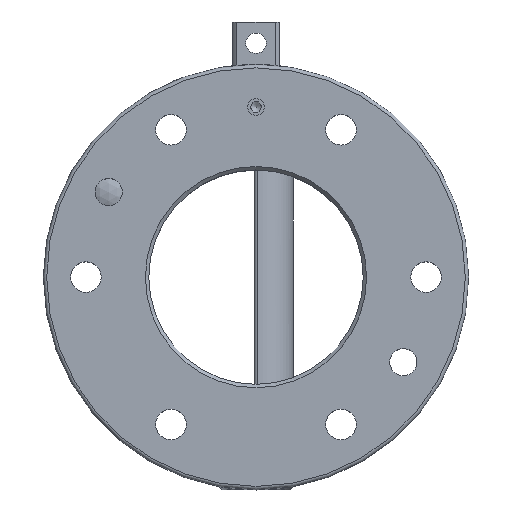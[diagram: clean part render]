
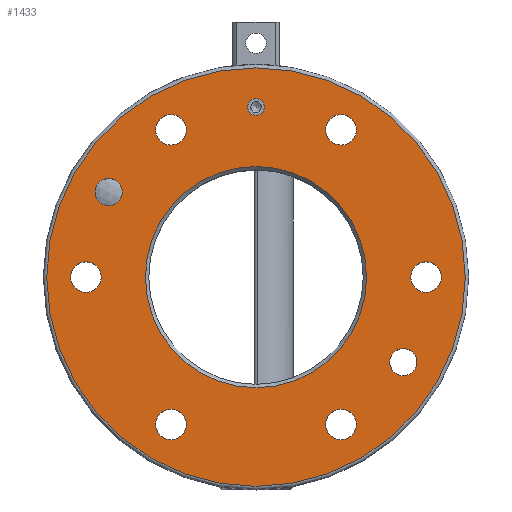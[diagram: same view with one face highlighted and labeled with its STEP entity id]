
A CAD part, top view. The second image highlights one B-rep face of the part: STEP entity #1433.
In plain terms, the highlighted planar face has unit normal (0, 0, 1).
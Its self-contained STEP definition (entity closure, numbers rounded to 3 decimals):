
#52=PLANE('',#1587);
#322=FACE_BOUND('',#550,.T.);
#323=FACE_BOUND('',#551,.T.);
#324=FACE_BOUND('',#552,.T.);
#325=FACE_BOUND('',#553,.T.);
#326=FACE_BOUND('',#554,.T.);
#327=FACE_BOUND('',#555,.T.);
#328=FACE_BOUND('',#556,.T.);
#329=FACE_BOUND('',#557,.T.);
#330=FACE_BOUND('',#558,.T.);
#331=FACE_BOUND('',#559,.T.);
#422=FACE_OUTER_BOUND('',#549,.T.);
#549=EDGE_LOOP('',(#1242));
#550=EDGE_LOOP('',(#1243));
#551=EDGE_LOOP('',(#1244));
#552=EDGE_LOOP('',(#1245));
#553=EDGE_LOOP('',(#1246));
#554=EDGE_LOOP('',(#1247));
#555=EDGE_LOOP('',(#1248));
#556=EDGE_LOOP('',(#1249));
#557=EDGE_LOOP('',(#1250));
#558=EDGE_LOOP('',(#1251));
#559=EDGE_LOOP('',(#1252));
#622=CIRCLE('',#1486,2.459);
#675=CIRCLE('',#1586,61.5);
#676=CIRCLE('',#1588,32.5);
#677=CIRCLE('',#1589,4.5);
#678=CIRCLE('',#1590,4.5);
#679=CIRCLE('',#1591,4.5);
#680=CIRCLE('',#1592,4.5);
#681=CIRCLE('',#1593,4.5);
#682=CIRCLE('',#1594,4.5);
#683=CIRCLE('',#1595,4.);
#684=CIRCLE('',#1596,4.);
#723=VERTEX_POINT('',#2137);
#800=VERTEX_POINT('',#2798);
#801=VERTEX_POINT('',#2801);
#802=VERTEX_POINT('',#2803);
#803=VERTEX_POINT('',#2805);
#804=VERTEX_POINT('',#2807);
#805=VERTEX_POINT('',#2809);
#806=VERTEX_POINT('',#2811);
#807=VERTEX_POINT('',#2813);
#808=VERTEX_POINT('',#2815);
#809=VERTEX_POINT('',#2817);
#856=EDGE_CURVE('',#723,#723,#622,.T.);
#965=EDGE_CURVE('',#800,#800,#675,.T.);
#966=EDGE_CURVE('',#801,#801,#676,.T.);
#967=EDGE_CURVE('',#802,#802,#677,.T.);
#968=EDGE_CURVE('',#803,#803,#678,.T.);
#969=EDGE_CURVE('',#804,#804,#679,.T.);
#970=EDGE_CURVE('',#805,#805,#680,.T.);
#971=EDGE_CURVE('',#806,#806,#681,.T.);
#972=EDGE_CURVE('',#807,#807,#682,.T.);
#973=EDGE_CURVE('',#808,#808,#683,.T.);
#974=EDGE_CURVE('',#809,#809,#684,.T.);
#1242=ORIENTED_EDGE('',*,*,#965,.F.);
#1243=ORIENTED_EDGE('',*,*,#966,.F.);
#1244=ORIENTED_EDGE('',*,*,#967,.T.);
#1245=ORIENTED_EDGE('',*,*,#968,.T.);
#1246=ORIENTED_EDGE('',*,*,#969,.T.);
#1247=ORIENTED_EDGE('',*,*,#970,.T.);
#1248=ORIENTED_EDGE('',*,*,#971,.T.);
#1249=ORIENTED_EDGE('',*,*,#972,.T.);
#1250=ORIENTED_EDGE('',*,*,#856,.T.);
#1251=ORIENTED_EDGE('',*,*,#973,.T.);
#1252=ORIENTED_EDGE('',*,*,#974,.T.);
#1433=ADVANCED_FACE('',(#422,#322,#323,#324,#325,#326,#327,#328,#329,#330,
#331),#52,.F.);
#1486=AXIS2_PLACEMENT_3D('',#2138,#1700,#1701);
#1586=AXIS2_PLACEMENT_3D('',#2799,#1932,#1933);
#1587=AXIS2_PLACEMENT_3D('',#2800,#1934,#1935);
#1588=AXIS2_PLACEMENT_3D('',#2802,#1936,#1937);
#1589=AXIS2_PLACEMENT_3D('',#2804,#1938,#1939);
#1590=AXIS2_PLACEMENT_3D('',#2806,#1940,#1941);
#1591=AXIS2_PLACEMENT_3D('',#2808,#1942,#1943);
#1592=AXIS2_PLACEMENT_3D('',#2810,#1944,#1945);
#1593=AXIS2_PLACEMENT_3D('',#2812,#1946,#1947);
#1594=AXIS2_PLACEMENT_3D('',#2814,#1948,#1949);
#1595=AXIS2_PLACEMENT_3D('',#2816,#1950,#1951);
#1596=AXIS2_PLACEMENT_3D('',#2818,#1952,#1953);
#1700=DIRECTION('center_axis',(0.,0.,-1.));
#1701=DIRECTION('ref_axis',(1.,0.,0.));
#1932=DIRECTION('center_axis',(0.,0.,-1.));
#1933=DIRECTION('ref_axis',(-1.,0.,0.));
#1934=DIRECTION('center_axis',(0.,0.,-1.));
#1935=DIRECTION('ref_axis',(-1.,0.,0.));
#1936=DIRECTION('center_axis',(0.,0.,1.));
#1937=DIRECTION('ref_axis',(-1.,0.,0.));
#1938=DIRECTION('center_axis',(0.,0.,-1.));
#1939=DIRECTION('ref_axis',(-1.,0.,0.));
#1940=DIRECTION('center_axis',(0.,0.,-1.));
#1941=DIRECTION('ref_axis',(-1.,0.,0.));
#1942=DIRECTION('center_axis',(0.,0.,-1.));
#1943=DIRECTION('ref_axis',(-1.,0.,0.));
#1944=DIRECTION('center_axis',(0.,0.,-1.));
#1945=DIRECTION('ref_axis',(-1.,0.,0.));
#1946=DIRECTION('center_axis',(0.,0.,-1.));
#1947=DIRECTION('ref_axis',(-1.,0.,0.));
#1948=DIRECTION('center_axis',(0.,0.,-1.));
#1949=DIRECTION('ref_axis',(-1.,0.,0.));
#1950=DIRECTION('center_axis',(0.,0.,-1.));
#1951=DIRECTION('ref_axis',(1.,0.,0.));
#1952=DIRECTION('center_axis',(0.,0.,-1.));
#1953=DIRECTION('ref_axis',(1.,0.,0.));
#2137=CARTESIAN_POINT('',(2.459,50.,0.));
#2138=CARTESIAN_POINT('Origin',(0.,50.,0.));
#2798=CARTESIAN_POINT('',(61.5,0.,0.));
#2799=CARTESIAN_POINT('Origin',(0.,0.,0.));
#2800=CARTESIAN_POINT('Origin',(0.,0.,0.));
#2801=CARTESIAN_POINT('',(32.5,0.,0.));
#2802=CARTESIAN_POINT('Origin',(0.,0.,0.));
#2803=CARTESIAN_POINT('',(-20.5,-43.301,0.));
#2804=CARTESIAN_POINT('Origin',(-25.,-43.301,0.));
#2805=CARTESIAN_POINT('',(29.5,-43.301,0.));
#2806=CARTESIAN_POINT('Origin',(25.,-43.301,0.));
#2807=CARTESIAN_POINT('',(54.5,0.,0.));
#2808=CARTESIAN_POINT('Origin',(50.,0.,0.));
#2809=CARTESIAN_POINT('',(29.5,43.301,0.));
#2810=CARTESIAN_POINT('Origin',(25.,43.301,0.));
#2811=CARTESIAN_POINT('',(-20.5,43.301,0.));
#2812=CARTESIAN_POINT('Origin',(-25.,43.301,0.));
#2813=CARTESIAN_POINT('',(-45.5,0.,0.));
#2814=CARTESIAN_POINT('Origin',(-50.,0.,0.));
#2815=CARTESIAN_POINT('',(-39.301,25.,0.));
#2816=CARTESIAN_POINT('Origin',(-43.301,25.,0.));
#2817=CARTESIAN_POINT('',(47.301,-25.,0.));
#2818=CARTESIAN_POINT('Origin',(43.301,-25.,0.));
